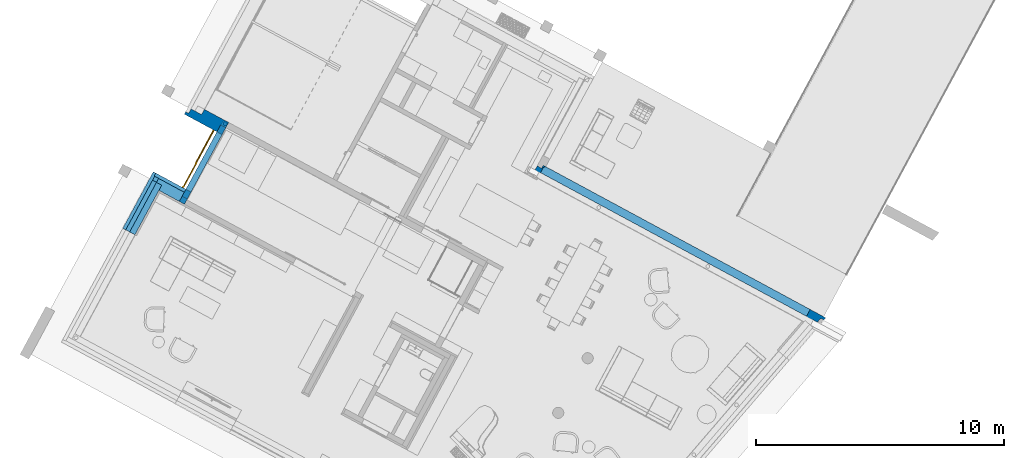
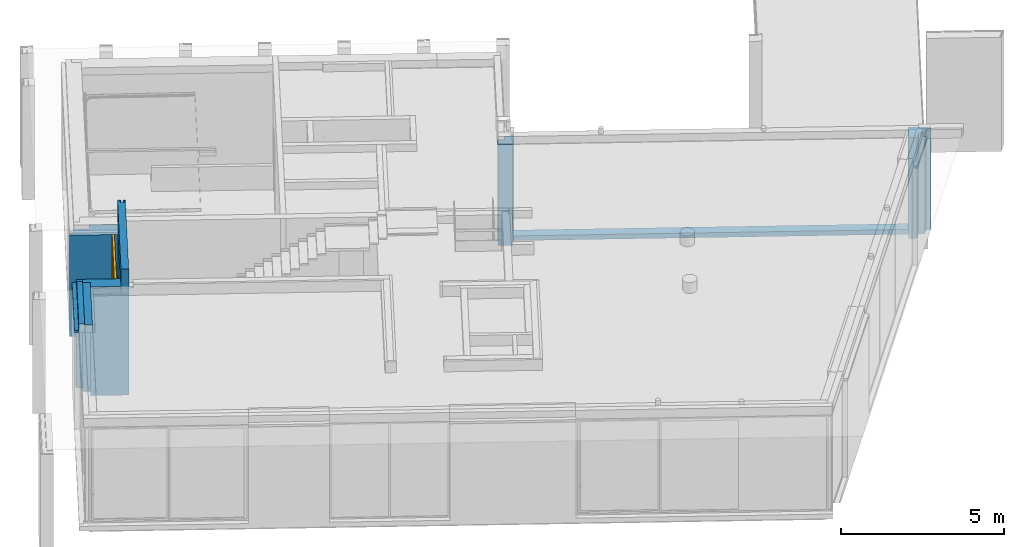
# One storey, part 12 of 52: 7 walls, 1 door, 2 openings.
"""IFC2X3 building model written with IfcOpenShell, lengths in metres."""

from ifc_helpers import new_model, entity, si_unit, converted_unit, derived_unit, money_unit, direction, frame, origin_with_axes, origin_2d_with_axis, place, context, subcontext, project, spatial, rectangle, extrude, faceted_brep, material, material_list, type_object, element, fill, save


model = new_model("IFC2X3")

# Units and contexts
model_context = context("Model", 3, precision=1e-05, world=origin_with_axes(), true_north=direction((0.0, 1.0)))
body_context = subcontext(model_context, "Body", "Model", "MODEL_VIEW")
ifc_project = project(units=[si_unit("LENGTHUNIT", "METRE"), si_unit("AREAUNIT", "SQUARE_METRE"), si_unit("VOLUMEUNIT", "CUBIC_METRE"), converted_unit("PLANEANGLEUNIT", "DEGREE", entity("IfcPlaneAngleMeasure", 0.0174532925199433), si_unit("PLANEANGLEUNIT", "RADIAN"), dimensions=[0, 0, 0, 0, 0, 0, 0]), money_unit("EUR"), converted_unit("TIMEUNIT", "Year", entity("IfcTimeMeasure", 31556926.0), si_unit("TIMEUNIT", "SECOND"), dimensions=[0, 0, 1, 0, 0, 0, 0]), si_unit("MASSUNIT", "GRAM", prefix="KILO"), si_unit("THERMODYNAMICTEMPERATUREUNIT", "DEGREE_CELSIUS"), si_unit("LUMINOUSINTENSITYUNIT", "LUMEN"), si_unit("ENERGYUNIT", "JOULE", prefix="MEGA"), derived_unit("THERMALCONDUCTANCEUNIT", [(si_unit("POWERUNIT", "WATT"), 1), (si_unit("LENGTHUNIT", "METRE"), -1), (si_unit("THERMODYNAMICTEMPERATUREUNIT", "KELVIN"), -1)]), derived_unit("SPECIFICHEATCAPACITYUNIT", [(si_unit("ENERGYUNIT", "JOULE"), 1), (si_unit("MASSUNIT", "GRAM", prefix="KILO"), -1), (si_unit("THERMODYNAMICTEMPERATUREUNIT", "KELVIN"), -1)]), derived_unit("MASSDENSITYUNIT", [(si_unit("MASSUNIT", "GRAM", prefix="KILO"), 1), (si_unit("VOLUMEUNIT", "CUBIC_METRE"), -1)])], contexts=[model_context])

# Site, building, storey
site_placement = place(None, frame((-3.949935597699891, 1.740105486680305, 0.0), z_axis=(0.0, 0.0, 1.0), x_axis=(0.8799804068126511, -0.475009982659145, 0.0)))
site = spatial("IfcSite", under=ifc_project, at=site_placement, Name="Gelände", CompositionType="ELEMENT")
building_placement = place(site_placement, origin_with_axes())
building = spatial("IfcBuilding", under=site, at=building_placement, Name="Gebäude", CompositionType="ELEMENT")
storey_placement = place(building_placement, origin_with_axes())
storey = spatial("IfcBuildingStorey", under=building, at=storey_placement, Name="Erdgeschoss", CompositionType="ELEMENT", Elevation=0.0)

# Wall, opening
ifc_material_1 = material(Name="_SIWH - Beton, Stahlbeton")
ifc_material_2 = material(Name="_SIWH - Dämmung, weich Mineralwolle")
ifc_material_3 = material(Name="_SIWH - Luftschicht vertikal")
ifc_material_4 = material(Name="_SIWH - MW Vormauerziegel")
ifc_material_list = material_list([ifc_material_1, ifc_material_2, ifc_material_3, ifc_material_4])
wall_type_1 = type_object("IfcWallType", Name="_SIWH - WA | Stb. 24+WD 18+LS 2+Verblender 11,5 | 55,5cm 555", PredefinedType="NOTDEFINED")
wall_1_placement = place(storey_placement, frame((30.10699655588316, 15.0830461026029, -0.1800000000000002), z_axis=(0.0, 0.0, 1.0), x_axis=(-1.0, 0.0, 0.0)))
wall_1 = element("IfcWall", 1, at=wall_1_placement, inside=storey, type_object=wall_type_1, material=ifc_material_list, Name="A-Wand042", context=body_context, shape_type="Brep", body=[
    faceted_brep([(12.49450993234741, 0.2400000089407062, 3.800000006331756), (12.49450993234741, 0.1250000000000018, 3.800000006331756), (12.49450993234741, -1.788141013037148e-08, 3.800000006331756), (12.93950238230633, 0.0, 3.799999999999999), (12.93950132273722, 0.240000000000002, 3.799999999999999), (12.49450993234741, 0.2400000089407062, 0.18), (12.49450993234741, 0.1250000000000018, 0.1800000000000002), (12.49450993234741, 0.0, 0.1800000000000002), (12.49450993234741, 0.0, 0.0), (12.93950238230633, 0.0, 0.0), (12.93950132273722, 0.2400000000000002, 0.0), (12.49450993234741, 0.2400000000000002, 0.0)], [[[0, 1, 2, 3, 4]], [[1, 0, 5, 6]], [[7, 2, 1, 6]], [[2, 7, 8, 9, 3]], [[4, 3, 9, 10]], [[5, 0, 4, 10, 11]], [[6, 5, 11, 8, 7]], [[10, 9, 8, 11]]]),
    faceted_brep([(0.3167045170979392, 0.0, 0.1800000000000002), (0.3167045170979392, -1.788141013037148e-08, 3.800000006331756), (0.0, 0.0, 3.799999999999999), (0.0, 0.0, 0.0), (0.3167045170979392, 0.0, 0.0), (0.3167045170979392, 0.1250000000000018, 3.800000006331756), (0.3167045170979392, 0.125, 0.1800000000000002), (0.3167045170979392, 0.2400000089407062, 3.800000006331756), (0.05241794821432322, 0.2400000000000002, 3.799999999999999), (0.05241794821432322, 0.2400000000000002, 0.0), (0.3167045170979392, 0.2400000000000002, 0.0), (0.3167045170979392, 0.2400000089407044, 0.18)], [[[0, 1, 2, 3, 4]], [[5, 1, 0, 6]], [[5, 7, 8, 2, 1]], [[3, 2, 8, 9]], [[3, 9, 10, 4]], [[6, 0, 4, 10, 11]], [[7, 5, 6, 11]], [[7, 11, 10, 9, 8]]]),
    faceted_brep([(12.49450993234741, -0.1799999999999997, 0.1800000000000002), (0.3167045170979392, -0.1800000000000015, 0.1800000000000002), (0.3167045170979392, -0.1800000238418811, 3.800000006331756), (-0.2235566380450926, -0.1799999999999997, 3.799999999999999), (-0.2235566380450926, -0.1799999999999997, 0.0), (12.73950317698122, -0.1799999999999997, 0.0), (12.73950317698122, -0.1799999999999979, 3.799999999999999), (12.49450993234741, -0.1800000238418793, 3.800000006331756), (12.49450993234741, 0.0, 0.1800000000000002), (0.3167045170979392, 0.0, 0.1800000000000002), (0.3167045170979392, -1.788141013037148e-08, 3.800000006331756), (-0.1842431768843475, 0.0, 3.799999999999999), (-0.1842431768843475, 0.0, 0.0), (12.73950238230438, 0.0, 0.0), (12.73950238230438, 0.0, 3.799999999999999), (12.49450993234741, -1.788141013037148e-08, 3.800000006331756)], [[[0, 1, 2, 3, 4, 5, 6, 7]], [[1, 0, 8, 9]], [[10, 2, 1, 9]], [[2, 10, 11, 3]], [[3, 11, 12, 4]], [[12, 13, 5, 4]], [[6, 5, 13, 14]], [[15, 7, 6, 14]], [[0, 7, 15, 8]], [[8, 15, 14, 13, 12, 11, 10, 9]]]),
    faceted_brep([(12.49450993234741, -0.1999999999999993, 0.1800000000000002), (0.3167045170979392, -0.2000000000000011, 0.1800000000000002), (0.3167045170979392, -0.20000001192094, 3.800000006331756), (-0.2483962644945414, -0.1999999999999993, 3.799999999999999), (-0.2483962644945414, -0.1999999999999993, 0.0), (12.55950326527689, -0.1999999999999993, 0.0), (12.55950326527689, -0.1999999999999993, 3.799999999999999), (12.49450993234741, -0.20000001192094, 3.800000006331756), (12.49450993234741, -0.1799999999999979, 0.1800000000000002), (0.3167045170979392, -0.1799999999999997, 0.1800000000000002), (0.3167045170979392, -0.1800000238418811, 3.800000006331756), (-0.2440281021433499, -0.1799999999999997, 3.799999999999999), (-0.2440281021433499, -0.1799999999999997, 0.0), (12.55950317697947, -0.1799999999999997, 0.0), (12.55950317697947, -0.1799999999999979, 3.799999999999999), (12.49450993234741, -0.1800000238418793, 3.800000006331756)], [[[0, 1, 2, 3, 4, 5, 6, 7]], [[1, 0, 8, 9]], [[10, 2, 1, 9]], [[2, 10, 11, 3]], [[3, 11, 12, 4]], [[12, 13, 5, 4]], [[6, 5, 13, 14]], [[15, 7, 6, 14]], [[0, 7, 15, 8]], [[8, 15, 14, 13, 12, 11, 10, 9]]]),
    faceted_brep([(12.42450377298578, -0.3149999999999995, 0.1800000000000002), (0.3167045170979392, -0.3150000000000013, 0.1800000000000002), (0.3167045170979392, -0.3149999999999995, 3.800000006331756), (-0.3912241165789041, -0.3149999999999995, 3.799999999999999), (-0.3912241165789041, -0.3149999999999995, 0.0), (12.5395037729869, -0.3149999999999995, 0.0), (12.5395037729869, -0.3149999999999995, 3.799999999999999), (12.42450377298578, -0.3149999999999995, 3.800000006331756), (12.49450993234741, -0.239556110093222, 0.1800000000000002), (12.49450993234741, -0.1999999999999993, 0.1800000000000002), (0.3167045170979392, -0.2000000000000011, 0.1800000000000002), (0.3167045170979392, -0.20000001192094, 3.800000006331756), (-0.3661071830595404, -0.1999999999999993, 3.799999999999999), (-0.3661071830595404, -0.1999999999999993, 0.0), (12.53950326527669, -0.1999999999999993, 0.0), (12.53950326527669, -0.1999999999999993, 3.799999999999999), (12.49450993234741, -0.239556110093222, 3.800000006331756), (12.49450993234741, -0.20000001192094, 3.800000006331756)], [[[0, 1, 2, 3, 4, 5, 6, 7]], [[1, 0, 8, 9, 10]], [[11, 2, 1, 10]], [[2, 11, 12, 3]], [[12, 13, 4, 3]], [[14, 5, 4, 13]], [[5, 14, 15, 6]], [[16, 7, 6, 15, 17]], [[0, 7, 16, 8]], [[16, 17, 9, 8]], [[9, 17, 15, 14, 13, 12, 11, 10]]]),
])
opening_1_placement = place(wall_1_placement, frame((6.405607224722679, 0.0, 0.1800000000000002), z_axis=(0.0, 0.0, 1.0), x_axis=(1.0, 0.0, 0.0)))
element("IfcOpeningElement", 2, at=opening_1_placement, cuts=wall_1, Name="Fenster-014", context=body_context, shape_type="Brep", body=[
    faceted_brep([(6.088902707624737, 0.1250000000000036, 3.620000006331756), (-6.088902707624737, 0.1250000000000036, 3.620000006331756), (-6.088902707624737, -0.3160000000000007, 3.620000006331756), (6.017968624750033, -0.3159999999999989, 3.620000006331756), (6.088902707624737, -0.2395561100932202, 3.620000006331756), (6.088902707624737, 0.2410000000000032, 3.620000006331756), (-6.088902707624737, 0.2410000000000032, 3.620000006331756), (-6.088902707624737, 0.1250000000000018, 0.0), (-6.088902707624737, -0.3160000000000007, 0.0), (6.017968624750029, -0.3160000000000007, 0.0), (6.088902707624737, -0.2395561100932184, 0.0), (6.088902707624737, 0.1250000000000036, 0.0), (6.088902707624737, 0.2410000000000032, 0.0), (-6.088902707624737, 0.2410000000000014, 0.0)], [[[0, 1, 2, 3, 4]], [[1, 0, 5, 6]], [[1, 7, 8, 2]], [[2, 8, 9, 3]], [[3, 9, 10, 4]], [[11, 0, 4, 10]], [[0, 11, 12, 5]], [[5, 12, 13, 6]], [[7, 1, 6, 13]], [[7, 11, 10, 9, 8]], [[11, 7, 13, 12]]]),
])

# Walls
wall_2_placement = place(storey_placement, frame((5.357481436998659, 7.393034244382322, -0.18), z_axis=(0.0, 0.0, 1.0), x_axis=(-1.0, 0.0, 0.0)))
element("IfcWall", 3, at=wall_2_placement, inside=storey, type_object=wall_type_1, material=ifc_material_list, Name="A-Wand027", context=body_context, shape_type="Brep", body=[
    faceted_brep([(0.93495118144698, 0.0, 0.0), (-0.2400000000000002, 0.0, 0.0), (-0.2400000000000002, 0.2400000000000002, 0.0), (0.9349513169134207, 0.2400000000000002, 0.0), (0.93495118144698, 0.0, 3.800000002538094), (-0.2400000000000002, 0.0, 3.800000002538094), (-0.2400000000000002, 0.2400000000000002, 3.800000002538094), (0.9349513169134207, 0.2400000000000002, 3.800000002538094)], [[[0, 1, 2, 3]], [[4, 5, 1, 0]], [[2, 1, 5, 6]], [[3, 2, 6, 7]], [[3, 7, 4, 0]], [[7, 6, 5, 4]]]),
    faceted_brep([(1.174951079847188, -0.1799999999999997, 0.0), (0.0, -0.1799999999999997, 0.0), (0.0, 0.0, 0.0), (1.174951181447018, 0.0, 0.0), (1.174951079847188, -0.1799999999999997, 3.800000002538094), (0.0, -0.1799999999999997, 3.800000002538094), (0.0, 0.0, 3.800000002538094), (1.174951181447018, 0.0, 3.800000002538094)], [[[0, 1, 2, 3]], [[4, 5, 1, 0]], [[2, 1, 5, 6]], [[3, 2, 6, 7]], [[3, 7, 4, 0]], [[7, 6, 5, 4]]]),
    faceted_brep([(1.354951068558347, -0.2000000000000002, 0.0), (0.0, -0.2000000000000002, 0.0), (0.0, -0.1799999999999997, 0.0), (1.354951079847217, -0.1799999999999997, 0.0), (1.354951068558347, -0.2000000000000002, 3.800000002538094), (0.0, -0.1999999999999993, 3.800000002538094), (0.0, -0.1799999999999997, 3.800000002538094), (1.354951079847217, -0.1799999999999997, 3.800000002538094)], [[[0, 1, 2, 3]], [[4, 5, 1, 0]], [[2, 1, 5, 6]], [[3, 2, 6, 7]], [[3, 7, 4, 0]], [[7, 6, 5, 4]]]),
    faceted_brep([(1.374951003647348, -0.3150000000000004, 0.0), (0.0, -0.3149999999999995, 0.0), (0.0, -0.2000000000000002, 0.0), (1.37495106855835, -0.2000000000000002, 0.0), (1.374951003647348, -0.3149999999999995, 3.800000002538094), (0.0, -0.3149999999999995, 3.800000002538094), (0.0, -0.1999999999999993, 3.800000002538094), (1.37495106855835, -0.2000000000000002, 3.800000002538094)], [[[0, 1, 2, 3]], [[4, 5, 1, 0]], [[2, 1, 5, 6]], [[3, 2, 6, 7]], [[3, 7, 4, 0]], [[7, 6, 5, 4]]]),
])
wall_3_placement = place(storey_placement, frame((4.182518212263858, 10.65780061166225, -0.1800000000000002), z_axis=(0.0, 0.0, 1.0), x_axis=(1.0, 0.0, 0.0)))
element("IfcWall", 4, at=wall_3_placement, inside=storey, type_object=wall_type_1, material=ifc_material_list, Name="A-Wand004", context=body_context, shape_type="Brep", body=[
    faceted_brep([(1.414963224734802, 0.0, 0.0), (0.3000000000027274, 0.0, 0.0), (0.2999989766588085, 0.2400000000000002, 0.0), (1.414963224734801, 0.240000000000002, 0.0), (1.414963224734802, 0.0, 3.800000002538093), (0.3000000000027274, 0.0, 3.800000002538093), (0.2999989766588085, 0.2400000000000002, 3.800000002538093), (1.414963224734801, 0.240000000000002, 3.800000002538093)], [[[0, 1, 2, 3]], [[4, 5, 1, 0]], [[2, 1, 5, 6]], [[3, 2, 6, 7]], [[3, 7, 4, 0]], [[7, 6, 5, 4]]]),
    faceted_brep([(1.174963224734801, -0.1799999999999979, 0.0), (-0.1799992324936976, -0.1800000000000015, 0.0), (-0.1800000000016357, 0.0, 0.0), (1.174963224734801, 0.0, 0.0), (1.174963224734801, -0.1799999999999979, 3.800000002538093), (-0.1799992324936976, -0.1800000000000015, 3.800000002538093), (-0.1800000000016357, 0.0, 3.800000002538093), (1.174963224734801, 0.0, 3.800000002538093)], [[[0, 1, 2, 3]], [[4, 5, 1, 0]], [[2, 1, 5, 6]], [[3, 2, 6, 7]], [[3, 7, 4, 0]], [[7, 6, 5, 4]]]),
    faceted_brep([(1.174963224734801, -0.1999999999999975, 0.0), (-0.1999991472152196, -0.2000000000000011, 0.0), (-0.1999992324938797, -0.1800000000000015, 0.0), (1.174963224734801, -0.1799999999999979, 0.0), (1.174963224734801, -0.1999999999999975, 3.800000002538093), (-0.1999991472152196, -0.2000000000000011, 3.800000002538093), (-0.1999992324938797, -0.1800000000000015, 3.800000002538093), (1.174963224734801, -0.1799999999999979, 3.800000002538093)], [[[0, 1, 2, 3]], [[4, 5, 1, 0]], [[2, 1, 5, 6]], [[3, 2, 6, 7]], [[3, 7, 4, 0]], [[7, 6, 5, 4]]]),
    faceted_brep([(1.174963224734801, -0.3149999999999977, 0.0), (-0.3149986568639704, -0.3150000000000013, 0.0), (-0.3149991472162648, -0.2000000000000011, 0.0), (1.174963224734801, -0.1999999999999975, 0.0), (1.174963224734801, -0.3149999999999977, 3.800000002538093), (-0.3149986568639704, -0.3150000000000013, 3.800000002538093), (-0.3149991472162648, -0.2000000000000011, 3.800000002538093), (1.174963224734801, -0.1999999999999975, 3.800000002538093)], [[[0, 1, 2, 3]], [[4, 5, 1, 0]], [[2, 1, 5, 6]], [[3, 2, 6, 7]], [[3, 7, 4, 0]], [[7, 6, 5, 4]]]),
])
wall_type_2 = type_object("IfcWallType", Name="_SIWH - Sturz Außenwand EG 555 x 330", PredefinedType="NOTDEFINED")
wall_4_placement = place(storey_placement, frame((4.182528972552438, 7.393034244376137, 3.620000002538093), z_axis=(0.0, 0.0, 1.0), x_axis=(0.0, -1.0, 0.0)))
element("IfcWall", 5, at=wall_4_placement, inside=storey, type_object=wall_type_2, material=ifc_material_list, Name="A-Wand016", context=body_context, shape_type="Brep", body=[
    faceted_brep([(0.0, 0.0001542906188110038, 0.3300000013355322), (0.0, 0.0001542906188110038, 0.2800000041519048), (0.0, 0.2400000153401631, 0.2800000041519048), (-3.224469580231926e-10, 0.240000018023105, 0.0), (-3.224469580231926e-10, 0.0, 0.0), (0.0, -3.376285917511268e-10, 0.3300000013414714), (2.27303387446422, 9.055274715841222e-05, 0.3300000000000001), (2.27303387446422, 9.055274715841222e-05, 0.2800000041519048), (2.27303387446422, 0.240000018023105, 0.2800000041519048), (2.27303387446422, 0.240000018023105, 0.0), (2.27303387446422, 0.0, 0.0), (2.27303387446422, 0.0, 0.3300000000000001)], [[[0, 1, 2, 3, 4, 5]], [[1, 0, 6, 7]], [[8, 2, 1, 7]], [[2, 8, 9, 3]], [[10, 4, 3, 9]], [[5, 4, 10, 11]], [[6, 0, 5, 11]], [[7, 6, 11, 10, 9, 8]]]),
    faceted_brep([(2.27303387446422, -3.224478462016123e-10, 0.0), (-0.1799999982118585, -3.224460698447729e-10, 0.0), (-0.1799999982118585, -3.224478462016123e-10, 0.07999999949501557), (-0.1799999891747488, -3.224478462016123e-10, 0.2800000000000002), (0.0, -3.224478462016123e-10, 0.2800000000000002), (0.0, -3.376285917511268e-10, 0.3300000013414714), (2.27303387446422, -3.224478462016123e-10, 0.3300000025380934), (2.27303387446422, -0.1799999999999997, 0.0), (-0.1799999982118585, -0.1799999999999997, 0.0), (-0.1799999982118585, -0.1800000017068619, 0.07999999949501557), (-0.1799999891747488, -0.1799999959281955, 0.2800000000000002), (0.0, -0.1799999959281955, 0.2800000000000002), (0.0, -0.1799999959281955, 0.3300000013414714), (2.27303387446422, -0.1799999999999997, 0.3300000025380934), (2.27303387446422, -0.1800000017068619, 0.08000000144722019)], [[[0, 1, 2, 3, 4, 5, 6]], [[7, 8, 1, 0]], [[8, 9, 2, 1]], [[3, 2, 9, 10]], [[10, 11, 4, 3]], [[4, 11, 12, 5]], [[13, 6, 5, 12]], [[7, 0, 6, 13, 14]], [[14, 9, 8, 7]], [[13, 12, 11, 10, 9, 14]]]),
    faceted_brep([(-0.2000000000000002, -0.1800000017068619, 0.0), (-0.2000000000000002, -0.1800000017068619, 0.08000000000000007), (2.27303387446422, -0.1800000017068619, 0.08000000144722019), (2.27303387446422, -0.1800000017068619, 0.0), (-0.2000000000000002, -0.2000000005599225, 0.08000000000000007), (-0.2000000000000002, -0.2000000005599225, 0.0), (2.27303387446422, -0.200000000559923, 0.07999999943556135), (2.27303387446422, -0.200000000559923, 0.0)], [[[0, 1, 2, 3]], [[4, 1, 0, 5]], [[1, 4, 6, 2]], [[6, 7, 3, 2]], [[5, 0, 3, 7]], [[4, 5, 7, 6]]]),
    faceted_brep([(-0.3149999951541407, -0.1999999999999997, 0.0), (-0.3149999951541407, -0.1999999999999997, 0.07999999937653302), (2.27303387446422, -0.2000000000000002, 0.08000000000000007), (2.27303387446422, -0.2000000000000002, 0.0), (-0.3149999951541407, -0.3149999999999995, 0.07999999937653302), (-0.3149999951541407, -0.3149999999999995, 0.0), (2.27303387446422, -0.3149999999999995, 0.08000000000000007), (2.27303387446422, -0.3149999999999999, 0.0)], [[[0, 1, 2, 3]], [[4, 1, 0, 5]], [[1, 4, 6, 2]], [[3, 2, 6, 7]], [[5, 0, 3, 7]], [[4, 5, 7, 6]]]),
])

# Wall, opening, door
wall_type_3 = type_object("IfcWallType", Name="_SIWH - WI | Stb. 24 | 24cm 240", PredefinedType="NOTDEFINED")
wall_5_placement = place(storey_placement, frame((5.357481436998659, 10.65780061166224, -0.1800000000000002), z_axis=(0.0, 0.0, 1.0), x_axis=(0.0, -1.0, 0.0)))
wall_5 = element("IfcWall", 6, at=wall_5_placement, inside=storey, type_object=wall_type_3, material=ifc_material_1, Name="A-Wand006", context=body_context, shape_type="Brep", body=[
    faceted_brep([(0.3149999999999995, 0.0, 3.8), (0.3149999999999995, 0.2400000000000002, 3.8), (0.0, 0.2400000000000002, 3.800000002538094), (0.0, 0.0, 3.800000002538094), (0.3149999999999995, 0.2399999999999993, 0.1800000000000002), (0.3149999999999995, 0.0, 0.1800000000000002), (2.949766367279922, 0.2400000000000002, 0.1800000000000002), (2.949766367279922, 0.2400000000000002, 3.8), (3.264766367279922, 0.2400000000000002, 3.800000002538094), (3.264766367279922, 0.2400000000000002, 0.0), (0.0, 0.2400000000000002, 0.0), (0.0, 0.0, 0.0), (3.264766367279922, 0.0, 0.0), (3.264766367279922, 0.0, 3.800000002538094), (2.949766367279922, 0.0, 3.8), (2.949766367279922, 0.0, 0.1800000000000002)], [[[0, 1, 2, 3]], [[4, 1, 0, 5]], [[6, 7, 8, 9, 10, 2, 1, 4]], [[10, 11, 3, 2]], [[5, 0, 3, 11, 12, 13, 14, 15]], [[6, 4, 5, 15]], [[14, 7, 6, 15]], [[7, 14, 13, 8]], [[9, 8, 13, 12]], [[12, 11, 10, 9]]]),
])
opening_2_placement = place(wall_5_placement, frame((1.632383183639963, 0.0, 0.1800000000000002), z_axis=(0.0, 0.0, 1.0), x_axis=(1.0, 0.0, 0.0)))
opening_2 = element("IfcOpeningElement", 7, at=opening_2_placement, cuts=wall_5, Name="Tür-018", context=body_context, shape_type="SweptSolid", body=[
    extrude(rectangle(XDim=2.634766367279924, YDim=3.62, at=origin_2d_with_axis()), frame((0.0, 0.2400000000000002, 1.81), z_axis=(0.0, -1.0, 0.0), x_axis=(1.0, 0.0, 0.0)), (0.0, 0.0, 1.0), 0.8999999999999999),
])
door_style = type_object("IfcDoorStyle", Name="Eingang 01 1-Fl 1S 26", ConstructionType="NOTDEFINED", OperationType="SINGLE_SWING_RIGHT", ParameterTakesPrecedence=False, Sizeable=False)
door_placement = place(opening_2_placement, frame((-1.317383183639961, 0.0, 0.0), z_axis=(0.0, 0.0, 1.0), x_axis=(1.0, 0.0, 0.0)))
door = element("IfcDoor", 8, at=door_placement, inside=storey, type_object=door_style, Name="Tür-018", OverallHeight=3.62, OverallWidth=2.63477, context=body_context, shape_type="Brep", body=[
    faceted_brep([(0.0600000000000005, -0.1799999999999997, 0.06), (0.0600000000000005, -0.1399999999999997, 0.06), (0.0600000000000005, -0.1399999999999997, 0.0), (0.0600000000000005, -0.1799999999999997, 0.0), (1.449899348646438, -0.1800000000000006, 0.06), (1.449899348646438, -0.1400000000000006, 0.06), (1.449899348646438, -0.1400000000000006, 3.56), (1.539899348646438, -0.1400000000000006, 3.56), (1.539899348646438, -0.1400000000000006, 0.0), (1.539899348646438, -0.1800000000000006, 0.0), (1.539899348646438, -0.1799999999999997, 3.56), (1.449899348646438, -0.1799999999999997, 3.56)], [[[0, 1, 2, 3]], [[4, 5, 1, 0]], [[1, 5, 6, 7, 8, 2]], [[3, 2, 8, 9]], [[0, 3, 9, 10, 11, 4]], [[11, 6, 5, 4]], [[10, 7, 6, 11]], [[9, 8, 7, 10]]]),
    faceted_brep([(0.02999999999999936, -0.1399999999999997, 0.03), (0.02999999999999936, -0.1100000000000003, 0.03), (0.02999999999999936, -0.1100000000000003, 0.0), (0.02999999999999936, -0.1399999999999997, 0.0), (1.479899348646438, -0.1400000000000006, 0.03), (1.479899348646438, -0.1100000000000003, 0.03), (1.479899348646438, -0.1100000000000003, 3.59), (1.509899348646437, -0.1100000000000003, 3.59), (1.509899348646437, -0.1100000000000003, 0.0), (1.509899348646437, -0.1400000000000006, 0.0), (1.509899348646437, -0.1400000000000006, 3.59), (1.479899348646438, -0.1400000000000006, 3.59)], [[[0, 1, 2, 3]], [[4, 5, 1, 0]], [[1, 5, 6, 7, 8, 2]], [[3, 2, 8, 9]], [[0, 3, 9, 10, 11, 4]], [[11, 6, 5, 4]], [[10, 7, 6, 11]], [[9, 8, 7, 10]]]),
    faceted_brep([(2.634766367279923, -0.1799999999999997, 0.0), (2.634766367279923, -0.1399999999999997, 0.0), (2.634766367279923, -0.1399999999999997, 3.62), (2.634766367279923, -0.1799999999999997, 3.62), (2.574766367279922, -0.1799999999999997, 0.0), (2.574766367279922, -0.1399999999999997, 0.0), (2.574766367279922, -0.1399999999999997, 3.56), (1.539899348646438, -0.1400000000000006, 3.56), (1.449899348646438, -0.1400000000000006, 3.56), (0.0600000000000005, -0.1399999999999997, 3.56), (0.0600000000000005, -0.1399999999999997, 0.06), (0.0600000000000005, -0.1399999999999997, 0.0), (0.0, -0.1399999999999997, 0.0), (0.0, -0.1399999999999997, 3.62), (0.0, -0.1799999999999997, 3.62), (0.0, -0.1799999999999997, 0.0), (0.0600000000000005, -0.1799999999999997, 0.0), (0.0600000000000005, -0.1799999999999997, 0.06), (0.0600000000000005, -0.1799999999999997, 3.56), (1.449899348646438, -0.1799999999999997, 3.56), (1.539899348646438, -0.1799999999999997, 3.56), (2.574766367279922, -0.1799999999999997, 3.56)], [[[0, 1, 2, 3]], [[4, 5, 1, 0]], [[1, 5, 6, 7, 8, 9, 10, 11, 12, 13, 2]], [[3, 2, 13, 14]], [[0, 3, 14, 15, 16, 17, 18, 19, 20, 21, 4]], [[21, 6, 5, 4]], [[20, 7, 6, 21]], [[19, 8, 7, 20]], [[18, 9, 8, 19]], [[17, 10, 9, 18]], [[16, 11, 10, 17]], [[15, 12, 11, 16]], [[14, 13, 12, 15]]]),
    faceted_brep([(2.634766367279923, -0.1399999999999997, 0.0), (2.634766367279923, -0.1099999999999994, 0.0), (2.634766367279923, -0.1099999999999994, 3.62), (2.634766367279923, -0.1399999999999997, 3.62), (2.604766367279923, -0.1399999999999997, 0.0), (2.604766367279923, -0.1099999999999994, 0.0), (2.604766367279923, -0.1099999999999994, 3.59), (1.509899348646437, -0.1100000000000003, 3.59), (1.479899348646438, -0.1100000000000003, 3.59), (0.02999999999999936, -0.1099999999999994, 3.59), (0.02999999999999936, -0.1100000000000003, 0.03), (0.02999999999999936, -0.1100000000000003, 0.0), (0.0, -0.1100000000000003, 0.0), (0.0, -0.1099999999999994, 3.62), (0.0, -0.1399999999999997, 3.62), (0.0, -0.1399999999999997, 0.0), (0.02999999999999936, -0.1399999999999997, 0.0), (0.02999999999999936, -0.1399999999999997, 0.03), (0.02999999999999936, -0.1399999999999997, 3.59), (1.479899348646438, -0.1400000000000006, 3.59), (1.509899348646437, -0.1400000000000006, 3.59), (2.604766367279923, -0.1399999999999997, 3.59)], [[[0, 1, 2, 3]], [[4, 5, 1, 0]], [[1, 5, 6, 7, 8, 9, 10, 11, 12, 13, 2]], [[3, 2, 13, 14]], [[0, 3, 14, 15, 16, 17, 18, 19, 20, 21, 4]], [[21, 6, 5, 4]], [[20, 7, 6, 21]], [[19, 8, 7, 20]], [[18, 9, 8, 19]], [[17, 10, 9, 18]], [[16, 11, 10, 17]], [[15, 12, 11, 16]], [[14, 13, 12, 15]]]),
    faceted_brep([(0.0600000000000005, -0.1565000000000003, 0.06), (1.449899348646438, -0.1565000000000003, 0.06), (1.449899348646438, -0.1635, 0.06), (0.0600000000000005, -0.1635, 0.06), (0.0600000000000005, -0.1565000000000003, 3.56), (1.449899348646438, -0.1565000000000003, 3.56), (1.449899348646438, -0.1635, 3.56), (0.0600000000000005, -0.1635, 3.56)], [[[0, 1, 2, 3]], [[0, 4, 5, 1]], [[1, 5, 6, 2]], [[3, 2, 6, 7]], [[4, 0, 3, 7]], [[5, 4, 7, 6]]]),
    faceted_brep([(2.604766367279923, -0.09999999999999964, 0.0), (1.509899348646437, -0.1000000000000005, 0.0), (1.509899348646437, -0.1000000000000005, 3.59), (2.604766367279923, -0.09999999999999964, 3.59), (2.604766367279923, -0.1399999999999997, 0.0), (1.509899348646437, -0.1400000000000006, 0.0), (1.509899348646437, -0.1400000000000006, 3.59), (2.604766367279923, -0.1399999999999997, 3.59)], [[[0, 1, 2, 3]], [[1, 0, 4, 5]], [[2, 1, 5, 6]], [[3, 2, 6, 7]], [[0, 3, 7, 4]], [[5, 4, 7, 6]]]),
    faceted_brep([(2.569766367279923, -0.1599999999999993, 0.0), (2.569766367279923, -0.1599999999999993, 0.05), (1.544899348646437, -0.1600000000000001, 0.05), (1.544899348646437, -0.1600000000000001, 0.0), (2.569766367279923, -0.1399999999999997, 0.0), (2.569766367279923, -0.1399999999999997, 0.07), (2.569766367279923, -0.1449999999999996, 0.07), (1.544899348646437, -0.1450000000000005, 0.07), (1.544899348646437, -0.1400000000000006, 0.07), (1.544899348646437, -0.1400000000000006, 0.0)], [[[0, 1, 2, 3]], [[0, 4, 5, 6, 1]], [[1, 6, 7, 2]], [[3, 2, 7, 8, 9]], [[4, 0, 3, 9]], [[5, 4, 9, 8]], [[6, 5, 8, 7]]]),
])
fill(opening_2, door)

# Walls
wall_type_4 = type_object("IfcWallType", Name="_SIWH - Sturz Außenwand EG Vordach 555 x 280", PredefinedType="NOTDEFINED")
wall_6_placement = place(storey_placement, frame((5.35748240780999, 7.393034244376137, 3.620000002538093), z_axis=(0.0, 0.0, 1.0), x_axis=(-1.0, 0.0, 0.0)))
element("IfcWall", 9, at=wall_6_placement, inside=storey, type_object=wall_type_4, material=ifc_material_list, Name="A-Wand022", context=body_context, shape_type="Brep", body=[
    faceted_brep([(0.934953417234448, 0.0, 0.08000000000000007), (0.9349534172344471, 0.0, 0.2800000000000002), (0.0, 0.0, 0.2800000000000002), (0.0, 0.0, 0.0), (0.934953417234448, 0.0, 0.0), (0.9349534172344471, 0.240000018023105, 0.2800000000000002), (0.934953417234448, 0.240000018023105, 0.08000000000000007), (0.0, 0.240000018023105, 0.2800000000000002), (0.0, 0.2400000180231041, 0.0), (0.934953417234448, 0.2400000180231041, 0.0)], [[[0, 1, 2, 3, 4]], [[5, 1, 0, 6]], [[1, 5, 7, 2]], [[3, 2, 7, 8]], [[9, 4, 3, 8]], [[6, 0, 4, 9]], [[5, 6, 9, 8, 7]]]),
    faceted_brep([(1.174953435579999, -0.1799999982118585, 0.08000000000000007), (1.174953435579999, -0.1799999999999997, 0.2800000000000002), (0.0, -0.1799999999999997, 0.2799999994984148), (0.0, -0.1799999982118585, 0.07999999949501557), (1.174953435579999, -3.224469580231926e-10, 0.2800000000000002), (1.174953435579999, -3.224469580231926e-10, 0.08000000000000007), (0.0, -3.224469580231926e-10, 0.2799999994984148), (0.0, -0.1799999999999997, 0.0), (0.0, -3.224469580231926e-10, 0.0), (1.174953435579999, -0.1799999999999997, 0.0), (1.174953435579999, -3.224469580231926e-10, 0.0)], [[[0, 1, 2, 3]], [[4, 1, 0, 5]], [[1, 4, 6, 2]], [[7, 3, 2, 6, 8]], [[9, 0, 3, 7]], [[5, 0, 9, 10]], [[4, 5, 10, 8, 6]], [[10, 9, 7, 8]]]),
    faceted_brep([(1.354953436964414, -0.1999999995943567, 0.0), (1.354953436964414, -0.1999999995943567, 0.08000000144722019), (0.0, -0.1999999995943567, 0.07999999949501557), (0.0, -0.1999999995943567, 0.0), (1.354953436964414, -0.1799999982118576, 0.08000000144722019), (1.354953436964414, -0.1799999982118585, 0.0), (0.0, -0.1799999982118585, 0.07999999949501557), (0.0, -0.1799999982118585, 0.0)], [[[0, 1, 2, 3]], [[4, 1, 0, 5]], [[1, 4, 6, 2]], [[2, 6, 7, 3]], [[5, 0, 3, 7]], [[4, 5, 7, 6]]]),
    faceted_brep([(1.374953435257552, -0.3149999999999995, 0.0), (1.374953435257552, -0.3149999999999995, 0.08000000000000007), (0.0, -0.3149999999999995, 0.08000000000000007), (0.0, -0.3149999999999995, 0.0), (1.374953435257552, -0.2000000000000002, 0.08000000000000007), (1.374953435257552, -0.2000000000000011, 0.0), (0.0, -0.1999999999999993, 0.08000000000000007), (0.0, -0.1999999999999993, 0.0)], [[[0, 1, 2, 3]], [[4, 1, 0, 5]], [[1, 4, 6, 2]], [[3, 2, 6, 7]], [[5, 0, 3, 7]], [[4, 5, 7, 6]]]),
])
wall_type_5 = type_object("IfcWallType", Name="_SIWH - Beton, Stahlbeton 240 x 930", PredefinedType="NOTDEFINED")
wall_7_placement = place(storey_placement, frame((5.47748143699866, 7.153034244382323, 4.550000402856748), z_axis=(0.0, 0.0, 1.0), x_axis=(1.0, 0.0, 0.0)))
element("IfcWall", 10, at=wall_7_placement, inside=storey, type_object=wall_type_5, material=ifc_material_1, Name="Unterzug-014", context=body_context, shape_type="Brep", body=[
    faceted_brep([(0.06467078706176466, 3.696244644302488, 0.0), (0.08148439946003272, 3.67943103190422, 0.0), (0.0922794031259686, 3.658244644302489, 0.0), (0.09599910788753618, 3.634759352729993, 0.0), (0.0922794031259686, 3.611274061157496, 0.0), (0.08148439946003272, 3.590087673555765, 0.0), (0.06467078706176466, 3.573274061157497, 0.0), (0.04348439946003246, 3.562479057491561, 0.0), (0.01999910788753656, 3.558759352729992, 0.0), (-0.003486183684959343, 3.562479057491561, 0.0), (-0.02467257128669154, 3.573274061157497, 0.0), (-0.0414861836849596, 3.590087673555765, 0.0), (-0.05228118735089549, 3.611274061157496, 0.0), (-0.05600089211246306, 3.634759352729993, 0.0), (-0.05228118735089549, 3.658244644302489, 0.0), (-0.0414861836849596, 3.67943103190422, 0.0), (-0.02467257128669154, 3.696244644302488, 0.0), (-0.007947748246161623, 3.704766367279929, 0.0), (-0.1200000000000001, 3.704766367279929, 0.0), (-0.1200000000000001, 0.0, 0.0), (0.1200000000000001, 0.0, 0.0), (0.1199999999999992, 3.704766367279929, 0.0), (0.04794596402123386, 3.704766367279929, 0.0), (0.08148439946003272, 3.67943103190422, -0.1500004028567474), (0.06467078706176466, 3.696244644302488, -0.1500004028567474), (0.0922794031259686, 3.658244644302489, -0.1500004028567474), (0.09599910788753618, 3.634759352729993, -0.1500004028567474), (0.0922794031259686, 3.611274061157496, -0.1500004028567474), (0.08148439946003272, 3.590087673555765, -0.1500004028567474), (0.06467078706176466, 3.573274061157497, -0.1500004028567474), (0.04348439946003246, 3.562479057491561, -0.1500004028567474), (0.01999910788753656, 3.558759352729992, -0.1500004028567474), (-0.003486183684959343, 3.562479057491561, -0.1500004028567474), (-0.02467257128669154, 3.573274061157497, -0.1500004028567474), (-0.0414861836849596, 3.590087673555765, -0.1500004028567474), (-0.05228118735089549, 3.611274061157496, -0.1500004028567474), (-0.05600089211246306, 3.634759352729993, -0.1500004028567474), (-0.05228118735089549, 3.658244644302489, -0.1500004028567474), (-0.0414861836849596, 3.67943103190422, -0.1500004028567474), (-0.02467257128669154, 3.696244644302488, -0.1500004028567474), (-0.007947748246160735, 3.704766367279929, -0.1500004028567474), (0.04794596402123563, 3.704766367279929, -0.1500004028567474), (0.1200000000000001, 3.704766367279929, -0.9300006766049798), (-0.1200000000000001, 3.704766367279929, -0.9300006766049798), (-0.1200000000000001, 0.0, -0.9300006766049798), (0.1200000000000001, 0.0, -0.9300006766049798)], [[[0, 1, 2, 3, 4, 5, 6, 7, 8, 9, 10, 11, 12, 13, 14, 15, 16, 17, 18, 19, 20, 21, 22]], [[23, 1, 0, 24]], [[25, 2, 1, 23]], [[26, 3, 2, 25]], [[27, 4, 3, 26]], [[28, 5, 4, 27]], [[29, 6, 5, 28]], [[30, 7, 6, 29]], [[31, 8, 7, 30]], [[32, 9, 8, 31]], [[33, 10, 9, 32]], [[34, 11, 10, 33]], [[35, 12, 11, 34]], [[36, 13, 12, 35]], [[37, 14, 13, 36]], [[38, 15, 14, 37]], [[39, 16, 15, 38]], [[39, 40, 17, 16]], [[40, 41, 22, 21, 42, 43, 18, 17]], [[44, 19, 18, 43]], [[20, 19, 44, 45]], [[20, 45, 42, 21]], [[24, 0, 22, 41]], [[24, 41, 40, 39, 38, 37, 36, 35, 34, 33, 32, 31, 30, 29, 28, 27, 26, 25, 23]], [[45, 44, 43, 42]]]),
])

save(model, "model.ifc")
